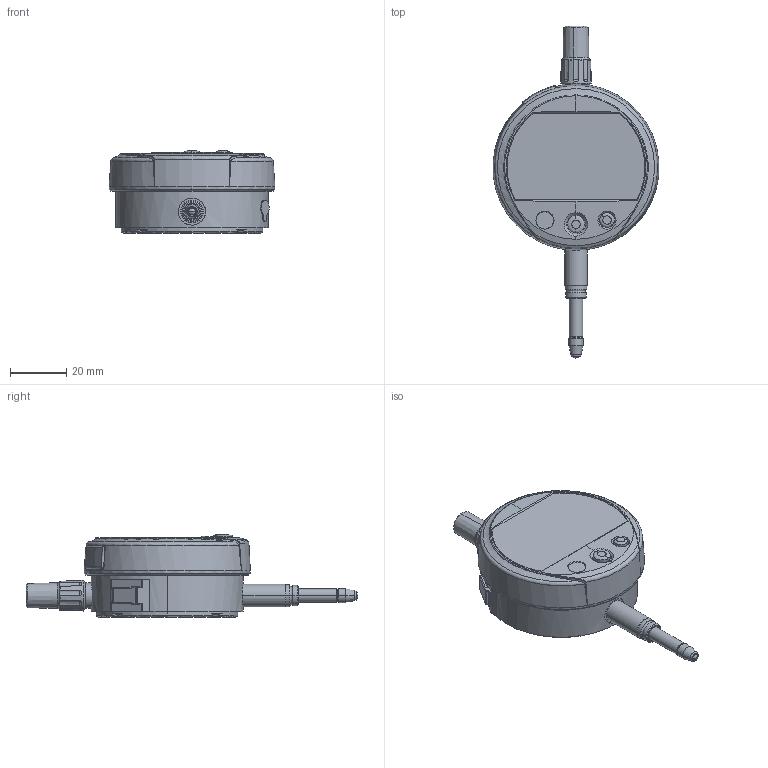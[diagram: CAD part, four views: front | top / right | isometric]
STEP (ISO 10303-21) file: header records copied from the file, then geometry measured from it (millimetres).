
FILE_DESCRIPTION(('Creo Elements/Direct Modeling STEP Export'),'2;1');
FILE_NAME('543-500B_AP203.stp','2017-08-31T13:03:15',(''),(''),'Creo Elements/Direct Modeling STEP processor for AP203 (Solid Model)','Creo Elements/Direct Modeling 18.1B 29-Sep-2012 (C) Parametric Technology GmbH','');
FILE_SCHEMA(('CONFIG_CONTROL_DESIGN'));
Length unit declared in the file: millimetre
Products named in the file (1): Top
Bounding box: 58.87 x 117.8 x 29.1 mm (x, y, z)
Volume: 71389.2 mm3; surface area: 12299.6 mm2
Topology: 1 solids, 2 shells, 446 faces, 1144 edges, 717 vertices
Faces by surface type: plane 125, cylinder 118, bspline 70, cone 66, torus 47, sphere 12, extrusion 4, revolution 4
Entity records: 25928 total; most frequent: CARTESIAN_POINT 15962, ORIENTED_EDGE 2280, DIRECTION 1763, EDGE_CURVE 1138, VERTEX_POINT 717, AXIS2_PLACEMENT_3D 694, EDGE_LOOP 470, FACE_OUTER_BOUND 446
